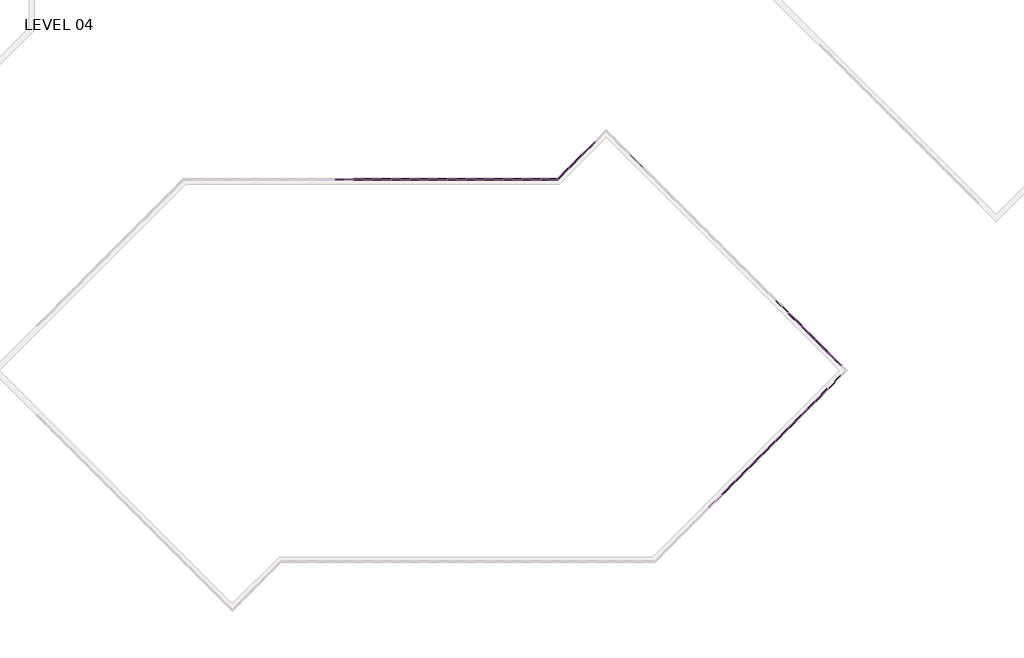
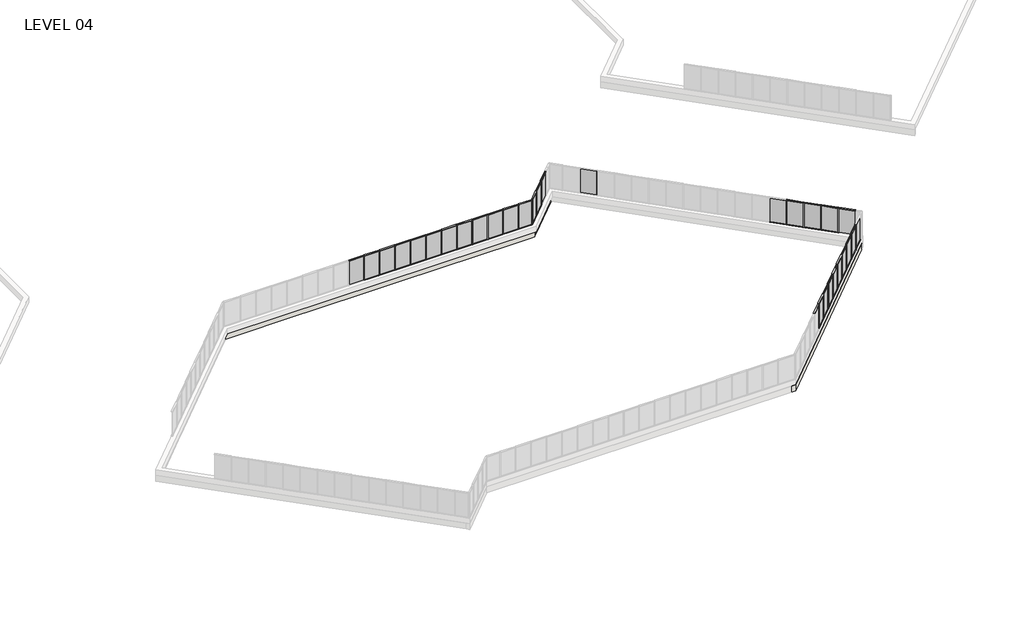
# One storey, part 8 of 17: 82 members, 30 plates, 3 walls.
"""IFC4 building model written with IfcOpenShell, lengths in millimetres."""

from ifc_helpers import new_model, si_unit, frame, origin, place, context, project, spatial, polyline, outline, extrude, faceted_brep, transform, mapped, element, save
from components import member_5247f267, member_e44af9ab, member_800970d4, member_45eb7f2e, plate_67294edd, plate_9c66726c, plate_129ab9d0

model = new_model("IFC4")

# Units and contexts
model_context = context("Model", 3, world=origin())
ifc_project = project(units=[si_unit("LENGTHUNIT", "METRE", prefix="MILLI")], contexts=[model_context])

# Site, building, storey
site = spatial("IfcSite", under=ifc_project)
building = spatial("IfcBuilding", under=site)
storey = spatial("IfcBuildingStorey", under=building, Name="LEVEL 04", Elevation=12052.3)

# Members
placement = place(None, origin())
member_shape = member_5247f267(model_context)
element("IfcMember", 1, ObjectType="Rectangular Mullion : 2\" x 4.5\" rectangular", at=placement, inside=storey, context=model_context, shape_type="MappedRepresentation", body=[
    mapped(member_shape, transform((55642.3943146, 1508.7210511, 12052.3), x_axis=(0.0, 0.0, -1.0), y_axis=(0.7071067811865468, -0.7071067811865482, 0.0), z_axis=(-0.7071067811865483, -0.7071067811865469, 0.0))),
])
element("IfcMember", 2, ObjectType="Rectangular Mullion : 2\" x 4.5\" rectangular", at=placement, inside=storey, context=model_context, shape_type="MappedRepresentation", body=[
    mapped(member_shape, transform((56720.0250491, 2586.3517856, 12052.3), x_axis=(0.0, 0.0, -1.0), y_axis=(0.7071067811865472, -0.7071067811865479, 0.0), z_axis=(-0.7071067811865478, -0.7071067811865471, 0.0))),
])
element("IfcMember", 3, ObjectType="Rectangular Mullion : 2\" x 4.5\" rectangular", at=placement, inside=storey, context=model_context, shape_type="MappedRepresentation", body=[
    mapped(member_shape, transform((57797.6557836, 3663.9825201, 12052.3), x_axis=(0.0, 0.0, -1.0), y_axis=(0.7071067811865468, -0.7071067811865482, 0.0), z_axis=(-0.7071067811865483, -0.7071067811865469, 0.0))),
])
element("IfcMember", 4, ObjectType="Rectangular Mullion : 2\" x 4.5\" rectangular", at=placement, inside=storey, context=model_context, shape_type="MappedRepresentation", body=[
    mapped(member_shape, transform((63185.8094563, 9052.1361928, 12052.3), x_axis=(0.0, 0.0, -1.0), y_axis=(0.7071067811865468, -0.7071067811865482, 0.0), z_axis=(-0.7071067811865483, -0.7071067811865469, 0.0))),
])
element("IfcMember", 5, ObjectType="Rectangular Mullion : 2\" x 4.5\" rectangular", at=placement, inside=storey, context=model_context, shape_type="MappedRepresentation", body=[
    mapped(member_shape, transform((54564.7635801, 431.0903165, 12052.3), x_axis=(0.0, 0.0, -1.0), y_axis=(0.7071067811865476, -0.7071067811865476, 0.0), z_axis=(-0.7071067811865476, -0.7071067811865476, 0.0))),
])
element("IfcMember", 6, ObjectType="Rectangular Mullion : 2\" x 4.5\" rectangular", at=placement, inside=storey, context=model_context, shape_type="MappedRepresentation", body=[
    mapped(member_shape, transform((59952.9172527, 5819.2439892, 12052.3), x_axis=(0.0, 0.0, -1.0), y_axis=(0.7071067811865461, -0.7071067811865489, 0.0), z_axis=(-0.7071067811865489, -0.7071067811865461, 0.0))),
])
element("IfcMember", 7, ObjectType="Rectangular Mullion : 2\" x 4.5\" rectangular", at=placement, inside=storey, context=model_context, shape_type="MappedRepresentation", body=[
    mapped(member_shape, transform((58875.2865182, 4741.6132547, 12052.3), x_axis=(0.0, 0.0, -1.0), y_axis=(0.7071067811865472, -0.7071067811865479, 0.0), z_axis=(-0.7071067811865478, -0.7071067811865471, 0.0))),
])
element("IfcMember", 8, ObjectType="Rectangular Mullion : 2\" x 4.5\" rectangular", at=placement, inside=storey, context=model_context, shape_type="MappedRepresentation", body=[
    mapped(member_shape, transform((61030.5479872, 6896.8747237, 12052.3), x_axis=(0.0, 0.0, -1.0), y_axis=(0.7071067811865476, -0.7071067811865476, 0.0), z_axis=(-0.7071067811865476, -0.7071067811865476, 0.0))),
])
element("IfcMember", 9, ObjectType="Rectangular Mullion : 2\" x 4.5\" rectangular", at=placement, inside=storey, context=model_context, shape_type="MappedRepresentation", body=[
    mapped(member_shape, transform((62108.1787218, 7974.5054582, 12052.3), x_axis=(0.0, 0.0, -1.0), y_axis=(0.7071067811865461, -0.7071067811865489, 0.0), z_axis=(-0.7071067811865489, -0.7071067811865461, 0.0))),
])
element("IfcMember", 10, ObjectType="Rectangular Mullion : 2\" x 4.5\" rectangular", at=placement, inside=storey, context=model_context, shape_type="MappedRepresentation", body=[
    mapped(member_shape, transform((63149.7097592, 11972.0792486, 12052.3), x_axis=(0.0, 0.0, -1.0), y_axis=(0.707106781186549, 0.7071067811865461, 0.0), z_axis=(0.707106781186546, -0.7071067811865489, 0.0))),
])
element("IfcMember", 11, ObjectType="Rectangular Mullion : 2\" x 4.5\" rectangular", at=placement, inside=storey, context=model_context, shape_type="MappedRepresentation", body=[
    mapped(member_shape, transform((62072.0790246, 13049.7099831, 12052.3), x_axis=(0.0, 0.0, -1.0), y_axis=(0.7071067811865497, 0.7071067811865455, 0.0), z_axis=(0.7071067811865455, -0.7071067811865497, 0.0))),
])
element("IfcMember", 12, ObjectType="Rectangular Mullion : 2\" x 4.5\" rectangular", at=placement, inside=storey, context=model_context, shape_type="MappedRepresentation", body=[
    mapped(member_shape, transform((60994.4482901, 14127.3407176, 12052.3), x_axis=(0.0, 0.0, -1.0), y_axis=(0.707106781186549, 0.7071067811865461, 0.0), z_axis=(0.707106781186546, -0.7071067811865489, 0.0))),
])
element("IfcMember", 13, ObjectType="Rectangular Mullion : 2\" x 4.5\" rectangular", at=placement, inside=storey, context=model_context, shape_type="MappedRepresentation", body=[
    mapped(member_shape, transform((59916.8175556, 15204.9714522, 12052.3), x_axis=(0.0, 0.0, -1.0), y_axis=(0.707106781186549, 0.7071067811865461, 0.0), z_axis=(0.707106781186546, -0.7071067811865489, 0.0))),
])
element("IfcMember", 14, ObjectType="Rectangular Mullion : 2\" x 4.5\" rectangular", at=placement, inside=storey, context=model_context, shape_type="MappedRepresentation", body=[
    mapped(member_shape, transform((43110.3767799, 28100.2657877, 12052.3), x_axis=(0.0, 0.0, -1.0), y_axis=(-0.7071067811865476, 0.7071067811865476, 0.0), z_axis=(0.7071067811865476, 0.7071067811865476, 0.0))),
])
element("IfcMember", 15, ObjectType="Rectangular Mullion : 2\" x 4.5\" rectangular", at=placement, inside=storey, context=model_context, shape_type="MappedRepresentation", body=[
    mapped(member_shape, transform((24517.35, 26080.1328721, 12052.3), x_axis=(0.0, 0.0, -1.0), y_axis=(0.0, -1.0, 0.0), z_axis=(-1.0, 0.0, 0.0))),
])
element("IfcMember", 16, ObjectType="Rectangular Mullion : 2\" x 4.5\" rectangular", at=placement, inside=storey, context=model_context, shape_type="MappedRepresentation", body=[
    mapped(member_shape, transform((27565.35, 26080.1328721, 12052.3), x_axis=(0.0, 0.0, -1.0), y_axis=(0.0, -1.0, 0.0), z_axis=(-1.0, 0.0, 0.0))),
])
element("IfcMember", 17, ObjectType="Rectangular Mullion : 2\" x 4.5\" rectangular", at=placement, inside=storey, context=model_context, shape_type="MappedRepresentation", body=[
    mapped(member_shape, transform((29089.35, 26080.1328721, 12052.3), x_axis=(0.0, 0.0, -1.0), y_axis=(0.0, -1.0, 0.0), z_axis=(-1.0, 0.0, 0.0))),
])
element("IfcMember", 18, ObjectType="Rectangular Mullion : 2\" x 4.5\" rectangular", at=placement, inside=storey, context=model_context, shape_type="MappedRepresentation", body=[
    mapped(member_shape, transform((30613.35, 26080.1328721, 12052.3), x_axis=(0.0, 0.0, -1.0), y_axis=(0.0, -1.0, 0.0), z_axis=(-1.0, 0.0, 0.0))),
])
element("IfcMember", 19, ObjectType="Rectangular Mullion : 2\" x 4.5\" rectangular", at=placement, inside=storey, context=model_context, shape_type="MappedRepresentation", body=[
    mapped(member_shape, transform((32137.35, 26080.1328721, 12052.3), x_axis=(0.0, 0.0, -1.0), y_axis=(0.0, -1.0, 0.0), z_axis=(-1.0, 0.0, 0.0))),
])
element("IfcMember", 20, ObjectType="Rectangular Mullion : 2\" x 4.5\" rectangular", at=placement, inside=storey, context=model_context, shape_type="MappedRepresentation", body=[
    mapped(member_shape, transform((35185.35, 26080.1328721, 12052.3), x_axis=(0.0, 0.0, -1.0), y_axis=(0.0, -1.0, 0.0), z_axis=(-1.0, 0.0, 0.0))),
])
element("IfcMember", 21, ObjectType="Rectangular Mullion : 2\" x 4.5\" rectangular", at=placement, inside=storey, context=model_context, shape_type="MappedRepresentation", body=[
    mapped(member_shape, transform((36709.35, 26080.1328721, 12052.3), x_axis=(0.0, 0.0, -1.0), y_axis=(0.0, -1.0, 0.0), z_axis=(-1.0, 0.0, 0.0))),
])
element("IfcMember", 22, ObjectType="Rectangular Mullion : 2\" x 4.5\" rectangular", at=placement, inside=storey, context=model_context, shape_type="MappedRepresentation", body=[
    mapped(member_shape, transform((38233.35, 26080.1328721, 12052.3), x_axis=(0.0, 0.0, -1.0), y_axis=(0.0, -1.0, 0.0), z_axis=(-1.0, 0.0, 0.0))),
])
element("IfcMember", 23, ObjectType="Rectangular Mullion : 2\" x 4.5\" rectangular", at=placement, inside=storey, context=model_context, shape_type="MappedRepresentation", body=[
    mapped(member_shape, transform((33661.35, 26080.1328721, 12052.3), x_axis=(0.0, 0.0, -1.0), y_axis=(0.0, -1.0, 0.0), z_axis=(-1.0, 0.0, 0.0))),
])
element("IfcMember", 24, ObjectType="Rectangular Mullion : 2\" x 4.5\" rectangular", at=placement, inside=storey, context=model_context, shape_type="MappedRepresentation", body=[
    mapped(member_shape, transform((26041.35, 26080.1328721, 12052.3), x_axis=(0.0, 0.0, -1.0), y_axis=(0.0, -1.0, 0.0), z_axis=(-1.0, 0.0, 0.0))),
])
element("IfcMember", 25, ObjectType="Rectangular Mullion : 2\" x 4.5\" rectangular", at=placement, inside=storey, context=model_context, shape_type="MappedRepresentation", body=[
    mapped(member_shape, transform((55606.4732901, 1472.8000266, 14643.1), x_axis=(0.0, 0.0, 1.0), y_axis=(0.7071067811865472, -0.7071067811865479, 0.0), z_axis=(0.7071067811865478, 0.7071067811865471, 0.0))),
])
element("IfcMember", 26, ObjectType="Rectangular Mullion : 2\" x 4.5\" rectangular", at=placement, inside=storey, context=model_context, shape_type="MappedRepresentation", body=[
    mapped(member_shape, transform((56684.1040246, 2550.4307611, 14643.1), x_axis=(0.0, 0.0, 1.0), y_axis=(0.7071067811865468, -0.7071067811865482, 0.0), z_axis=(0.7071067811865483, 0.7071067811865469, 0.0))),
])
element("IfcMember", 27, ObjectType="Rectangular Mullion : 2\" x 4.5\" rectangular", at=placement, inside=storey, context=model_context, shape_type="MappedRepresentation", body=[
    mapped(member_shape, transform((57761.7347592, 3628.0614956, 14643.1), x_axis=(0.0, 0.0, 1.0), y_axis=(0.7071067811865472, -0.7071067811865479, 0.0), z_axis=(0.7071067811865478, 0.7071067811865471, 0.0))),
])
element("IfcMember", 28, ObjectType="Rectangular Mullion : 2\" x 4.5\" rectangular", at=placement, inside=storey, context=model_context, shape_type="MappedRepresentation", body=[
    mapped(member_shape, transform((63149.8884318, 9016.2151683, 14643.1), x_axis=(0.0, 0.0, 1.0), y_axis=(0.7071067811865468, -0.7071067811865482, 0.0), z_axis=(0.7071067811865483, 0.7071067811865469, 0.0))),
])
element("IfcMember", 29, ObjectType="Rectangular Mullion : 2\" x 4.5\" rectangular", at=placement, inside=storey, context=model_context, shape_type="MappedRepresentation", body=[
    mapped(member_shape, transform((54528.8425556, 395.1692921, 14643.1), x_axis=(0.0, 0.0, 1.0), y_axis=(0.7071067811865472, -0.7071067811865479, 0.0), z_axis=(0.7071067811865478, 0.7071067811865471, 0.0))),
])
element("IfcMember", 30, ObjectType="Rectangular Mullion : 2\" x 4.5\" rectangular", at=placement, inside=storey, context=model_context, shape_type="MappedRepresentation", body=[
    mapped(member_shape, transform((59916.9962282, 5783.3229647, 14643.1), x_axis=(0.0, 0.0, 1.0), y_axis=(0.7071067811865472, -0.7071067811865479, 0.0), z_axis=(0.7071067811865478, 0.7071067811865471, 0.0))),
])
element("IfcMember", 31, ObjectType="Rectangular Mullion : 2\" x 4.5\" rectangular", at=placement, inside=storey, context=model_context, shape_type="MappedRepresentation", body=[
    mapped(member_shape, transform((58839.3654937, 4705.6922302, 14643.1), x_axis=(0.0, 0.0, 1.0), y_axis=(0.7071067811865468, -0.7071067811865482, 0.0), z_axis=(0.7071067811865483, 0.7071067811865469, 0.0))),
])
element("IfcMember", 32, ObjectType="Rectangular Mullion : 2\" x 4.5\" rectangular", at=placement, inside=storey, context=model_context, shape_type="MappedRepresentation", body=[
    mapped(member_shape, transform((60994.6269627, 6860.9536992, 14643.1), x_axis=(0.0, 0.0, 1.0), y_axis=(0.7071067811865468, -0.7071067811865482, 0.0), z_axis=(0.7071067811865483, 0.7071067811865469, 0.0))),
])
element("IfcMember", 33, ObjectType="Rectangular Mullion : 2\" x 4.5\" rectangular", at=placement, inside=storey, context=model_context, shape_type="MappedRepresentation", body=[
    mapped(member_shape, transform((62072.2576973, 7938.5844338, 14643.1), x_axis=(0.0, 0.0, 1.0), y_axis=(0.7071067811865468, -0.7071067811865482, 0.0), z_axis=(0.7071067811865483, 0.7071067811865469, 0.0))),
])
element("IfcMember", 34, ObjectType="Rectangular Mullion : 2\" x 4.5\" rectangular", at=placement, inside=storey, context=model_context, shape_type="MappedRepresentation", body=[
    mapped(member_shape, transform((63185.6307836, 11936.1582241, 14643.1), x_axis=(0.0, 0.0, 1.0), y_axis=(0.707106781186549, 0.7071067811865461, 0.0), z_axis=(-0.707106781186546, 0.7071067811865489, 0.0))),
])
element("IfcMember", 35, ObjectType="Rectangular Mullion : 2\" x 4.5\" rectangular", at=placement, inside=storey, context=model_context, shape_type="MappedRepresentation", body=[
    mapped(member_shape, transform((62108.0000491, 13013.7889586, 14643.1), x_axis=(0.0, 0.0, 1.0), y_axis=(0.7071067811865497, 0.7071067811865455, 0.0), z_axis=(-0.7071067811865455, 0.7071067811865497, 0.0))),
])
element("IfcMember", 36, ObjectType="Rectangular Mullion : 2\" x 4.5\" rectangular", at=placement, inside=storey, context=model_context, shape_type="MappedRepresentation", body=[
    mapped(member_shape, transform((61030.3693146, 14091.4196932, 14643.1), x_axis=(0.0, 0.0, 1.0), y_axis=(0.7071067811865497, 0.7071067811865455, 0.0), z_axis=(-0.7071067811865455, 0.7071067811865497, 0.0))),
])
element("IfcMember", 37, ObjectType="Rectangular Mullion : 2\" x 4.5\" rectangular", at=placement, inside=storey, context=model_context, shape_type="MappedRepresentation", body=[
    mapped(member_shape, transform((59952.7385801, 15169.0504277, 14643.1), x_axis=(0.0, 0.0, 1.0), y_axis=(0.707106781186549, 0.7071067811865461, 0.0), z_axis=(-0.707106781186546, 0.7071067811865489, 0.0))),
])
element("IfcMember", 38, ObjectType="Rectangular Mullion : 2\" x 4.5\" rectangular", at=placement, inside=storey, context=model_context, shape_type="MappedRepresentation", body=[
    mapped(member_shape, transform((42068.6670699, 27058.5560776, 14643.1), x_axis=(0.0, 0.0, 1.0), y_axis=(-0.7071067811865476, 0.7071067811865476, 0.0), z_axis=(-0.7071067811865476, -0.7071067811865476, 0.0))),
])
element("IfcMember", 39, ObjectType="Rectangular Mullion : 2\" x 4.5\" rectangular", at=placement, inside=storey, context=model_context, shape_type="MappedRepresentation", body=[
    mapped(member_shape, transform((43146.2978044, 28136.1868122, 14643.1), x_axis=(0.0, 0.0, 1.0), y_axis=(-0.7071067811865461, 0.7071067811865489, 0.0), z_axis=(-0.7071067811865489, -0.7071067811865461, 0.0))),
])
element("IfcMember", 40, ObjectType="Rectangular Mullion : 2\" x 4.5\" rectangular", at=placement, inside=storey, context=model_context, shape_type="MappedRepresentation", body=[
    mapped(member_shape, transform((24466.55, 26080.1328721, 14643.1), x_axis=(0.0, 0.0, 1.0), y_axis=(0.0, -1.0, 0.0), z_axis=(1.0, 0.0, 0.0))),
])
element("IfcMember", 41, ObjectType="Rectangular Mullion : 2\" x 4.5\" rectangular", at=placement, inside=storey, context=model_context, shape_type="MappedRepresentation", body=[
    mapped(member_shape, transform((27514.55, 26080.1328721, 14643.1), x_axis=(0.0, 0.0, 1.0), y_axis=(0.0, -1.0, 0.0), z_axis=(1.0, 0.0, 0.0))),
])
element("IfcMember", 42, ObjectType="Rectangular Mullion : 2\" x 4.5\" rectangular", at=placement, inside=storey, context=model_context, shape_type="MappedRepresentation", body=[
    mapped(member_shape, transform((29038.55, 26080.1328721, 14643.1), x_axis=(0.0, 0.0, 1.0), y_axis=(0.0, -1.0, 0.0), z_axis=(1.0, 0.0, 0.0))),
])
element("IfcMember", 43, ObjectType="Rectangular Mullion : 2\" x 4.5\" rectangular", at=placement, inside=storey, context=model_context, shape_type="MappedRepresentation", body=[
    mapped(member_shape, transform((30562.55, 26080.1328721, 14643.1), x_axis=(0.0, 0.0, 1.0), y_axis=(0.0, -1.0, 0.0), z_axis=(1.0, 0.0, 0.0))),
])
element("IfcMember", 44, ObjectType="Rectangular Mullion : 2\" x 4.5\" rectangular", at=placement, inside=storey, context=model_context, shape_type="MappedRepresentation", body=[
    mapped(member_shape, transform((32086.55, 26080.1328721, 14643.1), x_axis=(0.0, 0.0, 1.0), y_axis=(0.0, -1.0, 0.0), z_axis=(1.0, 0.0, 0.0))),
])
element("IfcMember", 45, ObjectType="Rectangular Mullion : 2\" x 4.5\" rectangular", at=placement, inside=storey, context=model_context, shape_type="MappedRepresentation", body=[
    mapped(member_shape, transform((35134.55, 26080.1328721, 14643.1), x_axis=(0.0, 0.0, 1.0), y_axis=(0.0, -1.0, 0.0), z_axis=(1.0, 0.0, 0.0))),
])
element("IfcMember", 46, ObjectType="Rectangular Mullion : 2\" x 4.5\" rectangular", at=placement, inside=storey, context=model_context, shape_type="MappedRepresentation", body=[
    mapped(member_shape, transform((36658.55, 26080.1328721, 14643.1), x_axis=(0.0, 0.0, 1.0), y_axis=(0.0, -1.0, 0.0), z_axis=(1.0, 0.0, 0.0))),
])
element("IfcMember", 47, ObjectType="Rectangular Mullion : 2\" x 4.5\" rectangular", at=placement, inside=storey, context=model_context, shape_type="MappedRepresentation", body=[
    mapped(member_shape, transform((38182.55, 26080.1328721, 14643.1), x_axis=(0.0, 0.0, 1.0), y_axis=(0.0, -1.0, 0.0), z_axis=(1.0, 0.0, 0.0))),
])
element("IfcMember", 48, ObjectType="Rectangular Mullion : 2\" x 4.5\" rectangular", at=placement, inside=storey, context=model_context, shape_type="MappedRepresentation", body=[
    mapped(member_shape, transform((39706.55, 26080.1328721, 14643.1), x_axis=(0.0, 0.0, 1.0), y_axis=(0.0, -1.0, 0.0), z_axis=(1.0, 0.0, 0.0))),
])
element("IfcMember", 49, ObjectType="Rectangular Mullion : 2\" x 4.5\" rectangular", at=placement, inside=storey, context=model_context, shape_type="MappedRepresentation", body=[
    mapped(member_shape, transform((33610.55, 26080.1328721, 14643.1), x_axis=(0.0, 0.0, 1.0), y_axis=(0.0, -1.0, 0.0), z_axis=(1.0, 0.0, 0.0))),
])
element("IfcMember", 50, ObjectType="Rectangular Mullion : 2\" x 4.5\" rectangular", at=placement, inside=storey, context=model_context, shape_type="MappedRepresentation", body=[
    mapped(member_shape, transform((25990.55, 26080.1328721, 14643.1), x_axis=(0.0, 0.0, 1.0), y_axis=(0.0, -1.0, 0.0), z_axis=(1.0, 0.0, 0.0))),
])
member_2_shape = member_e44af9ab(model_context)
element("IfcMember", 51, ObjectType="Rectangular Mullion : 2\" x 4.5\" rectangular", at=placement, inside=storey, context=model_context, shape_type="MappedRepresentation", body=[
    mapped(member_2_shape, transform((55624.4338023, 1490.7605388, 12052.3), x_axis=(0.7071067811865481, 0.7071067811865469, 0.0), y_axis=(0.7071067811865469, -0.7071067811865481, 0.0), z_axis=(0.0, 0.0, -1.0))),
])
element("IfcMember", 52, ObjectType="Rectangular Mullion : 2\" x 4.5\" rectangular", at=placement, inside=storey, context=model_context, shape_type="MappedRepresentation", body=[
    mapped(member_2_shape, transform((56702.0645369, 2568.3912734, 12052.3), x_axis=(0.7071067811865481, 0.7071067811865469, 0.0), y_axis=(0.7071067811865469, -0.7071067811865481, 0.0), z_axis=(0.0, 0.0, -1.0))),
])
element("IfcMember", 53, ObjectType="Rectangular Mullion : 2\" x 4.5\" rectangular", at=placement, inside=storey, context=model_context, shape_type="MappedRepresentation", body=[
    mapped(member_2_shape, transform((57779.6952714, 3646.0220079, 12052.3), x_axis=(0.7071067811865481, 0.7071067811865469, 0.0), y_axis=(0.7071067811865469, -0.7071067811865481, 0.0), z_axis=(0.0, 0.0, -1.0))),
])
element("IfcMember", 54, ObjectType="Rectangular Mullion : 2\" x 4.5\" rectangular", at=placement, inside=storey, context=model_context, shape_type="MappedRepresentation", body=[
    mapped(member_2_shape, transform((63167.848944, 9034.1756805, 12052.3), x_axis=(0.7071067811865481, 0.7071067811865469, 0.0), y_axis=(0.7071067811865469, -0.7071067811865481, 0.0), z_axis=(0.0, 0.0, -1.0))),
])
element("IfcMember", 55, ObjectType="Rectangular Mullion : 2\" x 4.5\" rectangular", at=placement, inside=storey, context=model_context, shape_type="MappedRepresentation", body=[
    mapped(member_2_shape, transform((54546.8030678, 413.1298043, 12052.3), x_axis=(0.7071067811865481, 0.7071067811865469, 0.0), y_axis=(0.7071067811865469, -0.7071067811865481, 0.0), z_axis=(0.0, 0.0, -1.0))),
])
element("IfcMember", 56, ObjectType="Rectangular Mullion : 2\" x 4.5\" rectangular", at=placement, inside=storey, context=model_context, shape_type="MappedRepresentation", body=[
    mapped(member_2_shape, transform((59934.9567405, 5801.2834769, 12052.3), x_axis=(0.7071067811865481, 0.7071067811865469, 0.0), y_axis=(0.7071067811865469, -0.7071067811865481, 0.0), z_axis=(0.0, 0.0, -1.0))),
])
element("IfcMember", 57, ObjectType="Rectangular Mullion : 2\" x 4.5\" rectangular", at=placement, inside=storey, context=model_context, shape_type="MappedRepresentation", body=[
    mapped(member_2_shape, transform((58857.3260059, 4723.6527424, 12052.3), x_axis=(0.7071067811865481, 0.7071067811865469, 0.0), y_axis=(0.7071067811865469, -0.7071067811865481, 0.0), z_axis=(0.0, 0.0, -1.0))),
])
element("IfcMember", 58, ObjectType="Rectangular Mullion : 2\" x 4.5\" rectangular", at=placement, inside=storey, context=model_context, shape_type="MappedRepresentation", body=[
    mapped(member_2_shape, transform((61012.587475, 6878.9142115, 12052.3), x_axis=(0.7071067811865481, 0.7071067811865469, 0.0), y_axis=(0.7071067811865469, -0.7071067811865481, 0.0), z_axis=(0.0, 0.0, -1.0))),
])
element("IfcMember", 59, ObjectType="Rectangular Mullion : 2\" x 4.5\" rectangular", at=placement, inside=storey, context=model_context, shape_type="MappedRepresentation", body=[
    mapped(member_2_shape, transform((62090.2182095, 7956.544946, 12052.3), x_axis=(0.7071067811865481, 0.7071067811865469, 0.0), y_axis=(0.7071067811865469, -0.7071067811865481, 0.0), z_axis=(0.0, 0.0, -1.0))),
])
element("IfcMember", 60, ObjectType="Rectangular Mullion : 2\" x 4.5\" rectangular", at=placement, inside=storey, context=model_context, shape_type="MappedRepresentation", body=[
    mapped(member_2_shape, transform((63167.6702714, 11954.1187363, 12052.3), x_axis=(-0.7071067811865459, 0.7071067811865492, 0.0), y_axis=(0.7071067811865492, 0.7071067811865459, 0.0), z_axis=(0.0, 0.0, -1.0))),
])
element("IfcMember", 61, ObjectType="Rectangular Mullion : 2\" x 4.5\" rectangular", at=placement, inside=storey, context=model_context, shape_type="MappedRepresentation", body=[
    mapped(member_2_shape, transform((62090.0395369, 13031.7494709, 12052.3), x_axis=(-0.7071067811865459, 0.7071067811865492, 0.0), y_axis=(0.7071067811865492, 0.7071067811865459, 0.0), z_axis=(0.0, 0.0, -1.0))),
])
element("IfcMember", 62, ObjectType="Rectangular Mullion : 2\" x 4.5\" rectangular", at=placement, inside=storey, context=model_context, shape_type="MappedRepresentation", body=[
    mapped(member_2_shape, transform((61012.4088023, 14109.3802054, 12052.3), x_axis=(-0.7071067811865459, 0.7071067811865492, 0.0), y_axis=(0.7071067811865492, 0.7071067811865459, 0.0), z_axis=(0.0, 0.0, -1.0))),
])
element("IfcMember", 63, ObjectType="Rectangular Mullion : 2\" x 4.5\" rectangular", at=placement, inside=storey, context=model_context, shape_type="MappedRepresentation", body=[
    mapped(member_2_shape, transform((59934.7780678, 15187.0109399, 12052.3), x_axis=(-0.7071067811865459, 0.7071067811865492, 0.0), y_axis=(0.7071067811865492, 0.7071067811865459, 0.0), z_axis=(0.0, 0.0, -1.0))),
])
element("IfcMember", 64, ObjectType="Rectangular Mullion : 2\" x 4.5\" rectangular", at=placement, inside=storey, context=model_context, shape_type="MappedRepresentation", body=[
    mapped(member_2_shape, transform((42050.7065576, 27040.5955654, 12052.3), x_axis=(-0.7071067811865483, -0.7071067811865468, 0.0), y_axis=(-0.7071067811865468, 0.7071067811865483, 0.0), z_axis=(0.0, 0.0, -1.0))),
])
element("IfcMember", 65, ObjectType="Rectangular Mullion : 2\" x 4.5\" rectangular", at=placement, inside=storey, context=model_context, shape_type="MappedRepresentation", body=[
    mapped(member_2_shape, transform((43128.3372922, 28118.2262999, 12052.3), x_axis=(-0.7071067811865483, -0.7071067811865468, 0.0), y_axis=(-0.7071067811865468, 0.7071067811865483, 0.0), z_axis=(0.0, 0.0, -1.0))),
])
element("IfcMember", 66, ObjectType="Rectangular Mullion : 2\" x 4.5\" rectangular", at=placement, inside=storey, context=model_context, shape_type="MappedRepresentation", body=[
    mapped(member_2_shape, transform((24491.95, 26080.1328721, 12052.3), x_axis=(1.0, 0.0, 0.0), y_axis=(0.0, -1.0, 0.0), z_axis=(0.0, 0.0, -1.0))),
])
element("IfcMember", 67, ObjectType="Rectangular Mullion : 2\" x 4.5\" rectangular", at=placement, inside=storey, context=model_context, shape_type="MappedRepresentation", body=[
    mapped(member_2_shape, transform((27539.95, 26080.1328721, 12052.3), x_axis=(1.0, 0.0, 0.0), y_axis=(0.0, -1.0, 0.0), z_axis=(0.0, 0.0, -1.0))),
])
element("IfcMember", 68, ObjectType="Rectangular Mullion : 2\" x 4.5\" rectangular", at=placement, inside=storey, context=model_context, shape_type="MappedRepresentation", body=[
    mapped(member_2_shape, transform((29063.95, 26080.1328721, 12052.3), x_axis=(1.0, 0.0, 0.0), y_axis=(0.0, -1.0, 0.0), z_axis=(0.0, 0.0, -1.0))),
])
element("IfcMember", 69, ObjectType="Rectangular Mullion : 2\" x 4.5\" rectangular", at=placement, inside=storey, context=model_context, shape_type="MappedRepresentation", body=[
    mapped(member_2_shape, transform((30587.95, 26080.1328721, 12052.3), x_axis=(1.0, 0.0, 0.0), y_axis=(0.0, -1.0, 0.0), z_axis=(0.0, 0.0, -1.0))),
])
element("IfcMember", 70, ObjectType="Rectangular Mullion : 2\" x 4.5\" rectangular", at=placement, inside=storey, context=model_context, shape_type="MappedRepresentation", body=[
    mapped(member_2_shape, transform((32111.95, 26080.1328721, 12052.3), x_axis=(1.0, 0.0, 0.0), y_axis=(0.0, -1.0, 0.0), z_axis=(0.0, 0.0, -1.0))),
])
element("IfcMember", 71, ObjectType="Rectangular Mullion : 2\" x 4.5\" rectangular", at=placement, inside=storey, context=model_context, shape_type="MappedRepresentation", body=[
    mapped(member_2_shape, transform((35159.95, 26080.1328721, 12052.3), x_axis=(1.0, 0.0, 0.0), y_axis=(0.0, -1.0, 0.0), z_axis=(0.0, 0.0, -1.0))),
])
element("IfcMember", 72, ObjectType="Rectangular Mullion : 2\" x 4.5\" rectangular", at=placement, inside=storey, context=model_context, shape_type="MappedRepresentation", body=[
    mapped(member_2_shape, transform((36683.95, 26080.1328721, 12052.3), x_axis=(1.0, 0.0, 0.0), y_axis=(0.0, -1.0, 0.0), z_axis=(0.0, 0.0, -1.0))),
])
element("IfcMember", 73, ObjectType="Rectangular Mullion : 2\" x 4.5\" rectangular", at=placement, inside=storey, context=model_context, shape_type="MappedRepresentation", body=[
    mapped(member_2_shape, transform((38207.95, 26080.1328721, 12052.3), x_axis=(1.0, 0.0, 0.0), y_axis=(0.0, -1.0, 0.0), z_axis=(0.0, 0.0, -1.0))),
])
element("IfcMember", 74, ObjectType="Rectangular Mullion : 2\" x 4.5\" rectangular", at=placement, inside=storey, context=model_context, shape_type="MappedRepresentation", body=[
    mapped(member_2_shape, transform((39731.95, 26080.1328721, 12052.3), x_axis=(1.0, 0.0, 0.0), y_axis=(0.0, -1.0, 0.0), z_axis=(0.0, 0.0, -1.0))),
])
element("IfcMember", 75, ObjectType="Rectangular Mullion : 2\" x 4.5\" rectangular", at=placement, inside=storey, context=model_context, shape_type="MappedRepresentation", body=[
    mapped(member_2_shape, transform((33635.95, 26080.1328721, 12052.3), x_axis=(1.0, 0.0, 0.0), y_axis=(0.0, -1.0, 0.0), z_axis=(0.0, 0.0, -1.0))),
])
element("IfcMember", 76, ObjectType="Rectangular Mullion : 2\" x 4.5\" rectangular", at=placement, inside=storey, context=model_context, shape_type="MappedRepresentation", body=[
    mapped(member_2_shape, transform((26015.95, 26080.1328721, 12052.3), x_axis=(1.0, 0.0, 0.0), y_axis=(0.0, -1.0, 0.0), z_axis=(0.0, 0.0, -1.0))),
])
member_3_shape = member_800970d4(model_context)
element("IfcMember", 77, ObjectType="Rectangular Mullion : 2\" x 4.5\" rectangular", at=placement, inside=storey, context=model_context, shape_type="MappedRepresentation", body=[
    mapped(member_3_shape, transform((41090.2438644, 26080.1328721, 12052.3), x_axis=(-0.7071067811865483, -0.7071067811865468, 0.0), y_axis=(-0.7071067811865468, 0.7071067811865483, 0.0), z_axis=(0.0, 0.0, -1.0))),
])
element("IfcMember", 78, ObjectType="Rectangular Mullion : 2\" x 4.5\" rectangular", at=placement, inside=storey, context=model_context, shape_type="MappedRepresentation", body=[
    mapped(member_3_shape, transform((41090.2438644, 26080.1328721, 12052.3), x_axis=(1.0, 0.0, 0.0), y_axis=(0.0, -1.0, 0.0), z_axis=(0.0, 0.0, -1.0))),
])
member_4_shape = member_45eb7f2e(model_context)
element("IfcMember", 79, ObjectType="Rectangular Mullion : 2\" x 4.5\" rectangular", at=placement, inside=storey, context=model_context, shape_type="MappedRepresentation", body=[
    mapped(member_4_shape, transform((41126.1648889, 26116.0538966, 14643.1), x_axis=(0.0, 0.0, 1.0), y_axis=(-0.7071067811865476, 0.7071067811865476, 0.0), z_axis=(-0.7071067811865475, -0.7071067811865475, 0.0))),
])
element("IfcMember", 80, ObjectType="Rectangular Mullion : 2\" x 4.5\" rectangular", at=placement, inside=storey, context=model_context, shape_type="MappedRepresentation", body=[
    mapped(member_4_shape, transform((41039.4438644, 26080.1328721, 14643.1), x_axis=(0.0, 0.0, 1.0), y_axis=(0.0, -1.0, 0.0), z_axis=(1.0, 0.0, 0.0))),
])
element("IfcMember", 81, ObjectType="Rectangular Mullion : 2\" x 4.5\" rectangular", at=placement, inside=storey, context=model_context, shape_type="MappedRepresentation", body=[
    mapped(member_4_shape, transform((42032.7460454, 27022.6350531, 12052.3), x_axis=(0.0, 0.0, -1.0), y_axis=(-0.7071067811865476, 0.7071067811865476, 0.0), z_axis=(0.7071067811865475, 0.7071067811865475, 0.0))),
])
element("IfcMember", 82, ObjectType="Rectangular Mullion : 2\" x 4.5\" rectangular", at=placement, inside=storey, context=model_context, shape_type="MappedRepresentation", body=[
    mapped(member_4_shape, transform((39757.35, 26080.1328721, 12052.3), x_axis=(0.0, 0.0, -1.0), y_axis=(0.0, -1.0, 0.0), z_axis=(-1.0, 0.0, 0.0))),
])

# Plates
plate_shape = plate_67294edd(model_context)
element("IfcPlate", 83, ObjectType="System Panel : 1/4\" Glass", at=placement, inside=storey, context=model_context, shape_type="MappedRepresentation", body=[
    mapped(plate_shape, transform((56163.2491696, 2029.5759061, 12103.1), x_axis=(0.7071067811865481, 0.7071067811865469, 0.0), y_axis=(-0.7071067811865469, 0.7071067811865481, 0.0), z_axis=(0.0, 0.0, 1.0))),
])
element("IfcPlate", 84, ObjectType="System Panel : 1/4\" Glass", at=placement, inside=storey, context=model_context, shape_type="MappedRepresentation", body=[
    mapped(plate_shape, transform((57240.8799041, 3107.2066406, 12103.1), x_axis=(0.7071067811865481, 0.7071067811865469, 0.0), y_axis=(-0.7071067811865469, 0.7071067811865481, 0.0), z_axis=(0.0, 0.0, 1.0))),
])
element("IfcPlate", 85, ObjectType="System Panel : 1/4\" Glass", at=placement, inside=storey, context=model_context, shape_type="MappedRepresentation", body=[
    mapped(plate_shape, transform((58318.5106387, 4184.8373752, 12103.1), x_axis=(0.7071067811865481, 0.7071067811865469, 0.0), y_axis=(-0.7071067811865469, 0.7071067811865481, 0.0), z_axis=(0.0, 0.0, 1.0))),
])
element("IfcPlate", 86, ObjectType="System Panel : 1/4\" Glass", at=placement, inside=storey, context=model_context, shape_type="MappedRepresentation", body=[
    mapped(plate_shape, transform((63706.6643113, 9572.9910478, 12103.1), x_axis=(0.7071067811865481, 0.7071067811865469, 0.0), y_axis=(-0.7071067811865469, 0.7071067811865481, 0.0), z_axis=(0.0, 0.0, 1.0))),
])
element("IfcPlate", 87, ObjectType="System Panel : 1/4\" Glass", at=placement, inside=storey, context=model_context, shape_type="MappedRepresentation", body=[
    mapped(plate_shape, transform((55085.6184351, 951.9451716, 12103.1), x_axis=(0.7071067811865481, 0.7071067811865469, 0.0), y_axis=(-0.7071067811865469, 0.7071067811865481, 0.0), z_axis=(0.0, 0.0, 1.0))),
])
element("IfcPlate", 88, ObjectType="System Panel : 1/4\" Glass", at=placement, inside=storey, context=model_context, shape_type="MappedRepresentation", body=[
    mapped(plate_shape, transform((60473.7721077, 6340.0988442, 12103.1), x_axis=(0.7071067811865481, 0.7071067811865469, 0.0), y_axis=(-0.7071067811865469, 0.7071067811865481, 0.0), z_axis=(0.0, 0.0, 1.0))),
])
element("IfcPlate", 89, ObjectType="System Panel : 1/4\" Glass", at=placement, inside=storey, context=model_context, shape_type="MappedRepresentation", body=[
    mapped(plate_shape, transform((59396.1413732, 5262.4681097, 12103.1), x_axis=(0.7071067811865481, 0.7071067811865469, 0.0), y_axis=(-0.7071067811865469, 0.7071067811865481, 0.0), z_axis=(0.0, 0.0, 1.0))),
])
element("IfcPlate", 90, ObjectType="System Panel : 1/4\" Glass", at=placement, inside=storey, context=model_context, shape_type="MappedRepresentation", body=[
    mapped(plate_shape, transform((61551.4028422, 7417.7295787, 12103.1), x_axis=(0.7071067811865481, 0.7071067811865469, 0.0), y_axis=(-0.7071067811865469, 0.7071067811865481, 0.0), z_axis=(0.0, 0.0, 1.0))),
])
element("IfcPlate", 91, ObjectType="System Panel : 1/4\" Glass", at=placement, inside=storey, context=model_context, shape_type="MappedRepresentation", body=[
    mapped(plate_shape, transform((62629.0335768, 8495.3603133, 12103.1), x_axis=(0.7071067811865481, 0.7071067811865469, 0.0), y_axis=(-0.7071067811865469, 0.7071067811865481, 0.0), z_axis=(0.0, 0.0, 1.0))),
])
element("IfcPlate", 92, ObjectType="System Panel : 1/4\" Glass", at=placement, inside=storey, context=model_context, shape_type="MappedRepresentation", body=[
    mapped(plate_shape, transform((62628.8549041, 12492.9341036, 12103.1), x_axis=(-0.7071067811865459, 0.7071067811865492, 0.0), y_axis=(-0.7071067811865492, -0.7071067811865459, 0.0), z_axis=(0.0, 0.0, 1.0))),
])
element("IfcPlate", 93, ObjectType="System Panel : 1/4\" Glass", at=placement, inside=storey, context=model_context, shape_type="MappedRepresentation", body=[
    mapped(plate_shape, transform((61551.2241696, 13570.5648381, 12103.1), x_axis=(-0.7071067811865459, 0.7071067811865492, 0.0), y_axis=(-0.7071067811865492, -0.7071067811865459, 0.0), z_axis=(0.0, 0.0, 1.0))),
])
element("IfcPlate", 94, ObjectType="System Panel : 1/4\" Glass", at=placement, inside=storey, context=model_context, shape_type="MappedRepresentation", body=[
    mapped(plate_shape, transform((60473.5934351, 14648.1955727, 12103.1), x_axis=(-0.7071067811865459, 0.7071067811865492, 0.0), y_axis=(-0.7071067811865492, -0.7071067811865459, 0.0), z_axis=(0.0, 0.0, 1.0))),
])
element("IfcPlate", 95, ObjectType="System Panel : 1/4\" Glass", at=placement, inside=storey, context=model_context, shape_type="MappedRepresentation", body=[
    mapped(plate_shape, transform((59395.9627005, 15725.8263072, 12103.1), x_axis=(-0.7071067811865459, 0.7071067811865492, 0.0), y_axis=(-0.7071067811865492, -0.7071067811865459, 0.0), z_axis=(0.0, 0.0, 1.0))),
])
element("IfcPlate", 96, ObjectType="System Panel : 1/4\" Glass", at=placement, inside=storey, context=model_context, shape_type="MappedRepresentation", body=[
    mapped(plate_shape, transform((63706.4856387, 11415.3033691, 12103.1), x_axis=(-0.7071067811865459, 0.7071067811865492, 0.0), y_axis=(-0.7071067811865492, -0.7071067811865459, 0.0), z_axis=(0.0, 0.0, 1.0))),
])
element("IfcPlate", 97, ObjectType="System Panel : 1/4\" Glass", at=placement, inside=storey, context=model_context, shape_type="MappedRepresentation", body=[
    mapped(plate_shape, transform((47542.381966, 27579.4070417, 12103.1), x_axis=(-0.7071067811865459, 0.7071067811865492, 0.0), y_axis=(-0.7071067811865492, -0.7071067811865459, 0.0), z_axis=(0.0, 0.0, 1.0))),
])
element("IfcPlate", 98, ObjectType="System Panel : 1/4\" Glass", at=placement, inside=storey, context=model_context, shape_type="MappedRepresentation", body=[
    mapped(plate_shape, transform((43667.1526594, 28657.0416672, 12103.1), x_axis=(-0.7071067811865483, -0.7071067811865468, 0.0), y_axis=(0.7071067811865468, -0.7071067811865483, 0.0), z_axis=(0.0, 0.0, 1.0))),
])
element("IfcPlate", 99, ObjectType="System Panel : 1/4\" Glass", at=placement, inside=storey, context=model_context, shape_type="MappedRepresentation", body=[
    mapped(plate_shape, transform((42589.5219249, 27579.4109327, 12103.1), x_axis=(-0.7071067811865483, -0.7071067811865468, 0.0), y_axis=(0.7071067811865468, -0.7071067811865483, 0.0), z_axis=(0.0, 0.0, 1.0))),
])
element("IfcPlate", 100, ObjectType="System Panel : 1/4\" Glass", at=placement, inside=storey, context=model_context, shape_type="MappedRepresentation", body=[
    mapped(plate_shape, transform((23729.95, 26080.1328721, 12103.1), x_axis=(1.0, 0.0, 0.0), y_axis=(0.0, 1.0, 0.0), z_axis=(0.0, 0.0, 1.0))),
])
element("IfcPlate", 101, ObjectType="System Panel : 1/4\" Glass", at=placement, inside=storey, context=model_context, shape_type="MappedRepresentation", body=[
    mapped(plate_shape, transform((25253.95, 26080.1328721, 12103.1), x_axis=(1.0, 0.0, 0.0), y_axis=(0.0, 1.0, 0.0), z_axis=(0.0, 0.0, 1.0))),
])
element("IfcPlate", 102, ObjectType="System Panel : 1/4\" Glass", at=placement, inside=storey, context=model_context, shape_type="MappedRepresentation", body=[
    mapped(plate_shape, transform((28301.95, 26080.1328721, 12103.1), x_axis=(1.0, 0.0, 0.0), y_axis=(0.0, 1.0, 0.0), z_axis=(0.0, 0.0, 1.0))),
])
element("IfcPlate", 103, ObjectType="System Panel : 1/4\" Glass", at=placement, inside=storey, context=model_context, shape_type="MappedRepresentation", body=[
    mapped(plate_shape, transform((29825.95, 26080.1328721, 12103.1), x_axis=(1.0, 0.0, 0.0), y_axis=(0.0, 1.0, 0.0), z_axis=(0.0, 0.0, 1.0))),
])
element("IfcPlate", 104, ObjectType="System Panel : 1/4\" Glass", at=placement, inside=storey, context=model_context, shape_type="MappedRepresentation", body=[
    mapped(plate_shape, transform((31349.95, 26080.1328721, 12103.1), x_axis=(1.0, 0.0, 0.0), y_axis=(0.0, 1.0, 0.0), z_axis=(0.0, 0.0, 1.0))),
])
element("IfcPlate", 105, ObjectType="System Panel : 1/4\" Glass", at=placement, inside=storey, context=model_context, shape_type="MappedRepresentation", body=[
    mapped(plate_shape, transform((32873.95, 26080.1328721, 12103.1), x_axis=(1.0, 0.0, 0.0), y_axis=(0.0, 1.0, 0.0), z_axis=(0.0, 0.0, 1.0))),
])
element("IfcPlate", 106, ObjectType="System Panel : 1/4\" Glass", at=placement, inside=storey, context=model_context, shape_type="MappedRepresentation", body=[
    mapped(plate_shape, transform((35921.95, 26080.1328721, 12103.1), x_axis=(1.0, 0.0, 0.0), y_axis=(0.0, 1.0, 0.0), z_axis=(0.0, 0.0, 1.0))),
])
element("IfcPlate", 107, ObjectType="System Panel : 1/4\" Glass", at=placement, inside=storey, context=model_context, shape_type="MappedRepresentation", body=[
    mapped(plate_shape, transform((37445.95, 26080.1328721, 12103.1), x_axis=(1.0, 0.0, 0.0), y_axis=(0.0, 1.0, 0.0), z_axis=(0.0, 0.0, 1.0))),
])
element("IfcPlate", 108, ObjectType="System Panel : 1/4\" Glass", at=placement, inside=storey, context=model_context, shape_type="MappedRepresentation", body=[
    mapped(plate_shape, transform((38969.95, 26080.1328721, 12103.1), x_axis=(1.0, 0.0, 0.0), y_axis=(0.0, 1.0, 0.0), z_axis=(0.0, 0.0, 1.0))),
])
element("IfcPlate", 109, ObjectType="System Panel : 1/4\" Glass", at=placement, inside=storey, context=model_context, shape_type="MappedRepresentation", body=[
    mapped(plate_shape, transform((34397.95, 26080.1328721, 12103.1), x_axis=(1.0, 0.0, 0.0), y_axis=(0.0, 1.0, 0.0), z_axis=(0.0, 0.0, 1.0))),
])
element("IfcPlate", 110, ObjectType="System Panel : 1/4\" Glass", at=placement, inside=storey, context=model_context, shape_type="MappedRepresentation", body=[
    mapped(plate_shape, transform((26777.95, 26080.1328721, 12103.1), x_axis=(1.0, 0.0, 0.0), y_axis=(0.0, 1.0, 0.0), z_axis=(0.0, 0.0, 1.0))),
])
plate_2_shape = plate_9c66726c(model_context)
element("IfcPlate", 111, ObjectType="System Panel : 1/4\" Glass", at=placement, inside=storey, context=model_context, shape_type="MappedRepresentation", body=[
    mapped(plate_2_shape, transform((40398.3969322, 26080.1328721, 12103.1), x_axis=(1.0, 0.0, 0.0), y_axis=(0.0, 1.0, 0.0), z_axis=(0.0, 0.0, 1.0))),
])
plate_3_shape = plate_129ab9d0(model_context)
element("IfcPlate", 112, ObjectType="System Panel : 1/4\" Glass", at=placement, inside=storey, context=model_context, shape_type="MappedRepresentation", body=[
    mapped(plate_3_shape, transform((41579.4554671, 26569.3444749, 12103.1), x_axis=(-0.7071067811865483, -0.7071067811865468, 0.0), y_axis=(0.7071067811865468, -0.7071067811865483, 0.0), z_axis=(0.0, 0.0, 1.0))),
])

# Walls
element("IfcWall", 113, ObjectType="01-CONCRETE-12", at=placement, inside=storey, context=model_context, shape_type="Brep", body=[
    faceted_brep([(10281.7715593, 25832.4828721, 10871.2), (10712.8238531, 25832.4828721, 10871.2), (10995.0863917, 25832.4828721, 10871.2), (18091.15, 25832.4828721, 10871.2), (18700.75, 25832.4828721, 10871.2), (25711.15, 25832.4828721, 10871.2), (26320.75, 25832.4828721, 10871.2), (33331.15, 25832.4828721, 10871.2), (33940.75, 25832.4828721, 10871.2), (40951.15, 25832.4828721, 10871.2), (41192.8238531, 25832.4828721, 10871.2), (41192.8238531, 25832.4828721, 11493.5), (40951.15, 25832.4828721, 11493.5), (33940.75, 25832.4828721, 11493.5), (33331.15, 25832.4828721, 11493.5), (26320.75, 25832.4828721, 11493.5), (25711.15, 25832.4828721, 11493.5), (18700.75, 25832.4828721, 11493.5), (18091.15, 25832.4828721, 11493.5), (10995.0863917, 25832.4828721, 11493.5), (10712.8238531, 25832.4828721, 11493.5), (10281.7715593, 25832.4828721, 11493.5), (10586.5715593, 26137.2828721, 10871.2), (10586.5715593, 26137.2828721, 11493.5), (41066.5715593, 26137.2828721, 11493.5), (41497.6238531, 26137.2828721, 11493.5), (41497.6238531, 26137.2828721, 10871.2), (41066.5715593, 26137.2828721, 10871.2), (41243.6238531, 25883.2828721, 10871.2), (41243.6238531, 25883.2828721, 11493.5)], [[[0, 1, 2, 3, 4, 5, 6, 7, 8, 9, 10, 11, 12, 13, 14, 15, 16, 17, 18, 19, 20, 21]], [[22, 23, 24, 25, 26, 27]], [[10, 9, 8, 7, 6, 5, 4, 3, 2, 1, 0, 22, 27, 26, 28]], [[21, 20, 19, 18, 17, 16, 15, 14, 13, 12, 11, 29, 25, 24, 23]], [[11, 10, 28, 26, 25, 29]], [[0, 21, 23, 22]]]),
])
element("IfcWall", 114, ObjectType="01-CONCRETE-12", at=placement, inside=storey, context=model_context, shape_type="SweptSolid", body=[
    extrude(outline(polyline([(45065.95, 29705.609019), (41497.6238531, 26137.2828721), (41066.5715593, 26137.2828721), (44850.4238531, 29921.1351659), (45065.95, 29705.609019)])), frame((0.0, 0.0, 10871.2), z_axis=(0.0, 0.0, 1.0), x_axis=(1.0, 0.0, 0.0)), (0.0, 0.0, 1.0), 622.3),
])
element("IfcWall", 115, ObjectType="01-CONCRETE-12", at=placement, inside=storey, context=model_context, shape_type="Brep", body=[
    faceted_brep([(64277.5011469, 10494.0578721, 10871.2), (48939.0761469, -4844.3671279, 10871.2), (48634.2761469, -5149.1671279, 10871.2), (48634.2761469, -5149.1671279, 11493.5), (48939.0761469, -4844.3671279, 11493.5), (64277.5011469, 10494.0578721, 11493.5), (64493.0272938, 10278.5317252, 10871.2), (64493.0272938, 10278.5317252, 11493.5), (49065.3284407, -5149.1671279, 11493.5), (49065.3284407, -5149.1671279, 10871.2)], [[[0, 1, 2, 3, 4, 5]], [[6, 7, 8, 9]], [[2, 1, 0, 6, 9]], [[5, 4, 3, 8, 7]], [[3, 2, 9, 8]], [[0, 5, 7, 6]]]),
])

save(model, "model.ifc")
